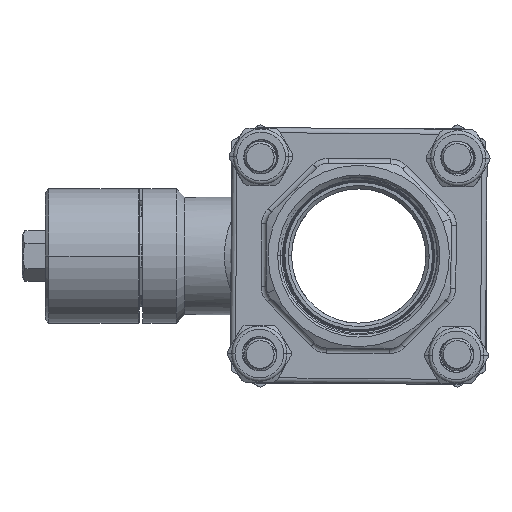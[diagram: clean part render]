
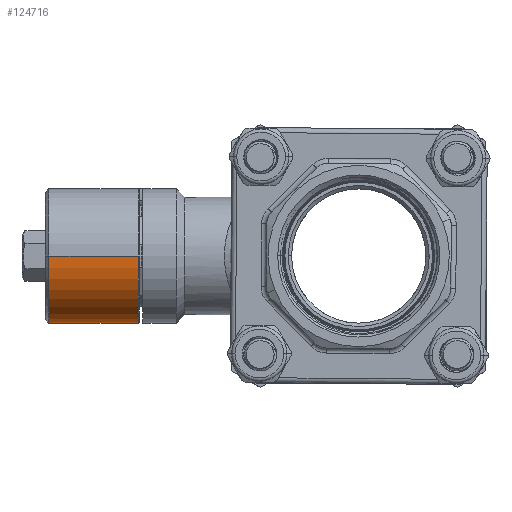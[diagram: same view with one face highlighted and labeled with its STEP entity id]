
A CAD part, left-side view. The second image highlights one B-rep face of the part: STEP entity #124716.
In plain terms, the highlighted cylindrical face has radius 20 mm (diameter 40 mm), a partial arc.
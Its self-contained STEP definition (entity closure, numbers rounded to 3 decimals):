
#57579=DIRECTION('',(0.,-1.,0.));
#57580=VECTOR('',#57579,3.7);
#57581=CARTESIAN_POINT('',(0.,69.3,-20.));
#57582=LINE('',#57581,#57580);
#57594=CARTESIAN_POINT('',(20.,78.8,0.));
#57595=CARTESIAN_POINT('',(20.,78.8,-0.177));
#57596=CARTESIAN_POINT('',(19.995,78.816,
-0.529));
#57597=CARTESIAN_POINT('',(19.974,78.886,
-1.056));
#57598=CARTESIAN_POINT('',(19.94,79.002,
-1.576));
#57599=CARTESIAN_POINT('',(19.893,79.166,
-2.087));
#57600=CARTESIAN_POINT('',(19.835,79.375,
-2.583));
#57601=CARTESIAN_POINT('',(19.766,79.631,
-3.063));
#57602=CARTESIAN_POINT('',(19.69,79.93,
-3.519));
#57603=CARTESIAN_POINT('',(19.608,80.271,
-3.949));
#57604=CARTESIAN_POINT('',(19.524,80.65,
-4.345));
#57605=CARTESIAN_POINT('',(19.439,81.065,
-4.706));
#57606=CARTESIAN_POINT('',(19.359,81.508,
-5.026));
#57607=CARTESIAN_POINT('',(19.284,81.978,
-5.304));
#57608=CARTESIAN_POINT('',(19.219,82.466,
-5.536));
#57609=CARTESIAN_POINT('',(19.164,82.97,
-5.723));
#57610=CARTESIAN_POINT('',(19.122,83.486,
-5.862));
#57611=CARTESIAN_POINT('',(19.093,84.008,
-5.955));
#57612=CARTESIAN_POINT('',(19.078,84.537,
-6.002));
#57613=CARTESIAN_POINT('',(19.078,85.063,
-6.002));
#57614=CARTESIAN_POINT('',(19.093,85.592,
-5.955));
#57615=CARTESIAN_POINT('',(19.122,86.114,
-5.862));
#57616=CARTESIAN_POINT('',(19.164,86.63,
-5.723));
#57617=CARTESIAN_POINT('',(19.219,87.133,
-5.536));
#57618=CARTESIAN_POINT('',(19.284,87.622,
-5.304));
#57619=CARTESIAN_POINT('',(19.359,88.091,
-5.026));
#57620=CARTESIAN_POINT('',(19.439,88.535,
-4.706));
#57621=CARTESIAN_POINT('',(19.524,88.95,
-4.345));
#57622=CARTESIAN_POINT('',(19.608,89.329,
-3.949));
#57623=CARTESIAN_POINT('',(19.69,89.67,
-3.519));
#57624=CARTESIAN_POINT('',(19.766,89.969,
-3.063));
#57625=CARTESIAN_POINT('',(19.835,90.225,
-2.583));
#57626=CARTESIAN_POINT('',(19.893,90.434,
-2.087));
#57627=CARTESIAN_POINT('',(19.94,90.598,
-1.576));
#57628=CARTESIAN_POINT('',(19.974,90.714,
-1.056));
#57629=CARTESIAN_POINT('',(19.995,90.785,
-0.529));
#57630=CARTESIAN_POINT('',(20.,90.8,-0.177));
#57631=CARTESIAN_POINT('',(20.,90.8,0.));
#57636=CARTESIAN_POINT('',(0.,92.3,0.));
#57637=DIRECTION('',(0.,1.,0.));
#57638=DIRECTION('',(1.,0.,0.));
#57639=AXIS2_PLACEMENT_3D('',#57636,#57637,#57638);
#57644=CARTESIAN_POINT('',(0.,65.6,0.));
#57645=DIRECTION('',(0.,1.,0.));
#57646=DIRECTION('',(0.,0.,-1.));
#57647=AXIS2_PLACEMENT_3D('',#57644,#57645,#57646);
#57724=DIRECTION('',(0.,1.,0.));
#57725=VECTOR('',#57724,9.5);
#57726=CARTESIAN_POINT('',(20.,69.3,0.));
#57727=LINE('',#57726,#57725);
#57762=DIRECTION('',(0.,1.,0.));
#57763=VECTOR('',#57762,26.7);
#57764=CARTESIAN_POINT('',(-20.,65.6,
0.));
#57765=LINE('',#57764,#57763);
#57777=DIRECTION('',(0.,1.,0.));
#57778=VECTOR('',#57777,1.5);
#57779=CARTESIAN_POINT('',(20.,90.8,0.));
#57780=LINE('',#57779,#57778);
#57784=CARTESIAN_POINT('',(0.,69.3,0.));
#57785=DIRECTION('',(0.,-1.,0.));
#57786=DIRECTION('',(0.,0.,-1.));
#57787=AXIS2_PLACEMENT_3D('',#57784,#57785,#57786);
#78490=CARTESIAN_POINT('',(0.,69.3,-20.));
#78491=CARTESIAN_POINT('',(20.,69.3,0.));
#78492=VERTEX_POINT('',#78490);
#78493=VERTEX_POINT('',#78491);
#78506=CARTESIAN_POINT('',(-20.,92.3,0.));
#78507=CARTESIAN_POINT('',(20.,92.3,0.));
#78508=VERTEX_POINT('',#78506);
#78509=VERTEX_POINT('',#78507);
#78517=CARTESIAN_POINT('',(0.,65.6,-20.));
#78519=VERTEX_POINT('',#78517);
#78520=CARTESIAN_POINT('',(-20.,65.6,0.));
#78521=VERTEX_POINT('',#78520);
#79400=VERTEX_POINT('',#57594);
#79401=VERTEX_POINT('',#57631);
#124695=CARTESIAN_POINT('',(0.,65.875,0.));
#124696=DIRECTION('',(0.,-1.,0.));
#124697=DIRECTION('',(0.,0.,1.));
#124698=AXIS2_PLACEMENT_3D('',#124695,#124696,#124697);
#124699=CYLINDRICAL_SURFACE('',#124698,20.);
#124701=ORIENTED_EDGE('',*,*,#124700,.T.);
#124703=ORIENTED_EDGE('',*,*,#124702,.T.);
#124705=ORIENTED_EDGE('',*,*,#124704,.T.);
#124707=ORIENTED_EDGE('',*,*,#124706,.F.);
#124708=ORIENTED_EDGE('',*,*,#124681,.F.);
#124709=ORIENTED_EDGE('',*,*,#124661,.F.);
#124711=ORIENTED_EDGE('',*,*,#124710,.T.);
#124713=ORIENTED_EDGE('',*,*,#124712,.T.);
#124714=EDGE_LOOP('',(#124701,#124703,#124705,#124707,#124708,#124709,#124711,
#124713));
#124715=FACE_OUTER_BOUND('',#124714,.F.);
#124716=ADVANCED_FACE('',(#124715),#124699,.T.);
#57632=B_SPLINE_CURVE_WITH_KNOTS('',3,(#57594,#57595,#57596,#57597,#57598,
#57599,#57600,#57601,#57602,#57603,#57604,#57605,#57606,#57607,#57608,#57609,
#57610,#57611,#57612,#57613,#57614,#57615,#57616,#57617,#57618,#57619,#57620,
#57621,#57622,#57623,#57624,#57625,#57626,#57627,#57628,#57629,#57630,#57631),
.UNSPECIFIED.,.F.,.F.,(4,1,1,1,1,1,1,1,1,1,1,1,1,1,1,1,1,1,1,1,1,1,1,1,1,1,1,1,
1,1,1,1,1,1,1,4),(0.,0.029,0.057,0.086,
0.114,0.143,0.171,0.2,0.229,
0.257,0.286,0.314,0.343,
0.371,0.4,0.429,0.457,0.486,
0.514,0.543,0.571,0.6,0.629,
0.657,0.686,0.714,0.743,
0.771,0.8,0.829,0.857,0.886,
0.914,0.943,0.971,1.),.UNSPECIFIED.);
#57640=CIRCLE('',#57639,20.);
#57648=CIRCLE('',#57647,20.);
#57788=CIRCLE('',#57787,20.);
#124661=EDGE_CURVE('',#78492,#78519,#57582,.T.);
#124681=EDGE_CURVE('',#78519,#78521,#57648,.T.);
#124700=EDGE_CURVE('',#79400,#79401,#57632,.T.);
#124702=EDGE_CURVE('',#79401,#78509,#57780,.T.);
#124704=EDGE_CURVE('',#78509,#78508,#57640,.T.);
#124706=EDGE_CURVE('',#78521,#78508,#57765,.T.);
#124710=EDGE_CURVE('',#78492,#78493,#57788,.T.);
#124712=EDGE_CURVE('',#78493,#79400,#57727,.T.);
